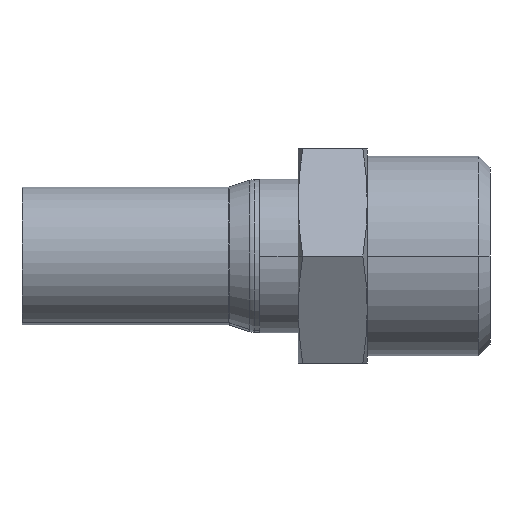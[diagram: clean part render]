
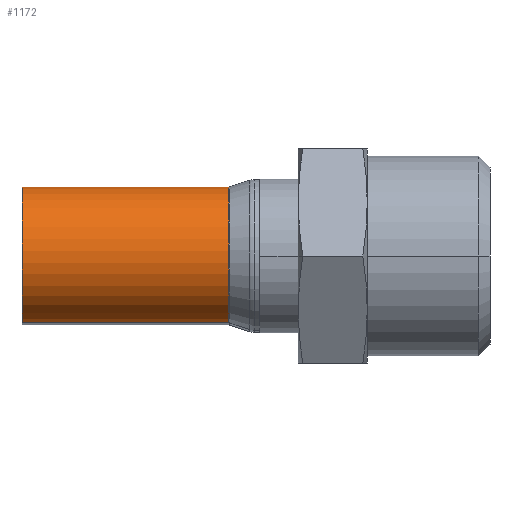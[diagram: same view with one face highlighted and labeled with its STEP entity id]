
A CAD part, left-side view. The second image highlights one B-rep face of the part: STEP entity #1172.
In plain terms, the highlighted cylindrical face has radius 9 mm (diameter 18 mm), a partial arc.
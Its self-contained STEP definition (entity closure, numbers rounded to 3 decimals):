
#73 = LINE ( 'NONE', #1081, #1214 ) ;
#105 = ORIENTED_EDGE ( 'NONE', *, *, #847, .F. ) ;
#136 = VERTEX_POINT ( 'NONE', #395 ) ;
#202 = CIRCLE ( 'NONE', #245, 9. ) ;
#245 = AXIS2_PLACEMENT_3D ( 'NONE', #1306, #564, #1579 ) ;
#395 = CARTESIAN_POINT ( 'NONE',  ( 0., 0., 9. ) ) ;
#421 = DIRECTION ( 'NONE',  ( -1., 0., 0. ) ) ;
#502 = CARTESIAN_POINT ( 'NONE',  ( -1.55, 0., 9. ) ) ;
#547 = VERTEX_POINT ( 'NONE', #1633 ) ;
#564 = DIRECTION ( 'NONE',  ( -1., 0., 0. ) ) ;
#612 = EDGE_CURVE ( 'NONE', #1871, #547, #73, .T. ) ;
#680 = ORIENTED_EDGE ( 'NONE', *, *, #1229, .T. ) ;
#847 = EDGE_CURVE ( 'NONE', #547, #136, #202, .T. ) ;
#863 = DIRECTION ( 'NONE',  ( -1., 0., 0. ) ) ;
#935 = EDGE_LOOP ( 'NONE', ( #1611, #680, #1182, #105 ) ) ;
#1019 = AXIS2_PLACEMENT_3D ( 'NONE', #1583, #421, #1446 ) ;
#1027 = CARTESIAN_POINT ( 'NONE',  ( 26.919, 0., -9. ) ) ;
#1044 = FACE_OUTER_BOUND ( 'NONE', #935, .T. ) ;
#1081 = CARTESIAN_POINT ( 'NONE',  ( -1.55, 0., -9. ) ) ;
#1125 = VECTOR ( 'NONE', #1667, 1000. ) ;
#1138 = CARTESIAN_POINT ( 'NONE',  ( 26.919, 0., 9. ) ) ;
#1172 = ADVANCED_FACE ( 'NONE', ( #1044 ), #1912, .T. ) ;
#1182 = ORIENTED_EDGE ( 'NONE', *, *, #1641, .T. ) ;
#1214 = VECTOR ( 'NONE', #1373, 1000. ) ;
#1227 = VERTEX_POINT ( 'NONE', #1138 ) ;
#1229 = EDGE_CURVE ( 'NONE', #1871, #1227, #1746, .T. ) ;
#1306 = CARTESIAN_POINT ( 'NONE',  ( 0., 0., 0. ) ) ;
#1337 = LINE ( 'NONE', #502, #1125 ) ;
#1373 = DIRECTION ( 'NONE',  ( -1., 0., 0. ) ) ;
#1446 = DIRECTION ( 'NONE',  ( 0., 0., 1. ) ) ;
#1579 = DIRECTION ( 'NONE',  ( 0., 0., 1. ) ) ;
#1583 = CARTESIAN_POINT ( 'NONE',  ( -1.55, 0., 0. ) ) ;
#1611 = ORIENTED_EDGE ( 'NONE', *, *, #612, .F. ) ;
#1633 = CARTESIAN_POINT ( 'NONE',  ( 0., 0., -9. ) ) ;
#1641 = EDGE_CURVE ( 'NONE', #1227, #136, #1337, .T. ) ;
#1667 = DIRECTION ( 'NONE',  ( -1., 0., 0. ) ) ;
#1746 = CIRCLE ( 'NONE', #1754, 9. ) ;
#1754 = AXIS2_PLACEMENT_3D ( 'NONE', #1860, #863, #1853 ) ;
#1853 = DIRECTION ( 'NONE',  ( 0., 0., 1. ) ) ;
#1860 = CARTESIAN_POINT ( 'NONE',  ( 26.919, 0., 0. ) ) ;
#1871 = VERTEX_POINT ( 'NONE', #1027 ) ;
#1912 = CYLINDRICAL_SURFACE ( 'NONE', #1019, 9. ) ;
